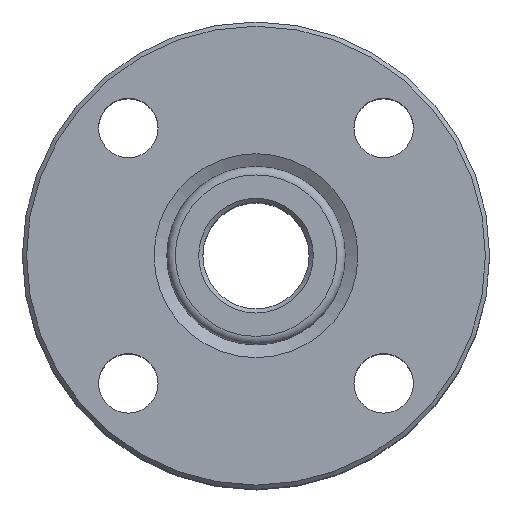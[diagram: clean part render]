
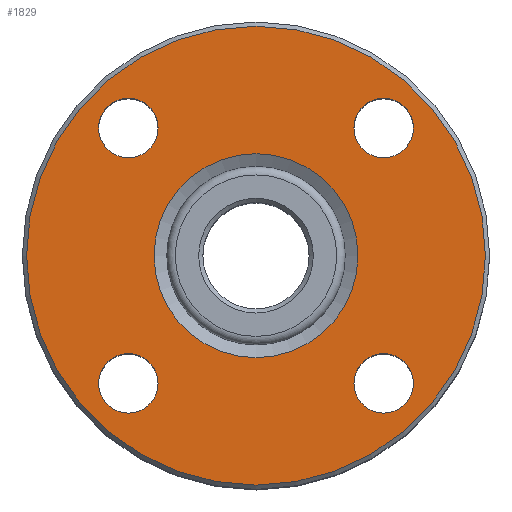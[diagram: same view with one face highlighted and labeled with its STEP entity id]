
A CAD part, top view. The second image highlights one B-rep face of the part: STEP entity #1829.
In plain terms, the highlighted planar face has unit normal (0, 0, 1).
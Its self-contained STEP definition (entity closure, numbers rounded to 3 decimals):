
#163=FACE_BOUND('',#354,.T.);
#164=FACE_BOUND('',#355,.T.);
#165=FACE_BOUND('',#356,.T.);
#166=FACE_BOUND('',#357,.T.);
#167=FACE_BOUND('',#358,.T.);
#176=PLANE('',#1975);
#238=FACE_OUTER_BOUND('',#353,.T.);
#353=EDGE_LOOP('',(#1219));
#354=EDGE_LOOP('',(#1220));
#355=EDGE_LOOP('',(#1221));
#356=EDGE_LOOP('',(#1222));
#357=EDGE_LOOP('',(#1223));
#358=EDGE_LOOP('',(#1224));
#636=CIRCLE('',#1974,54.);
#637=CIRCLE('',#1976,7.);
#638=CIRCLE('',#1977,7.);
#639=CIRCLE('',#1978,7.);
#640=CIRCLE('',#1979,7.);
#641=CIRCLE('',#1980,24.);
#756=VERTEX_POINT('',#2681);
#757=VERTEX_POINT('',#2685);
#758=VERTEX_POINT('',#2687);
#759=VERTEX_POINT('',#2689);
#760=VERTEX_POINT('',#2691);
#761=VERTEX_POINT('',#2693);
#938=EDGE_CURVE('',#756,#756,#636,.T.);
#939=EDGE_CURVE('',#757,#757,#637,.T.);
#940=EDGE_CURVE('',#758,#758,#638,.T.);
#941=EDGE_CURVE('',#759,#759,#639,.T.);
#942=EDGE_CURVE('',#760,#760,#640,.T.);
#943=EDGE_CURVE('',#761,#761,#641,.T.);
#1219=ORIENTED_EDGE('',*,*,#938,.F.);
#1220=ORIENTED_EDGE('',*,*,#939,.F.);
#1221=ORIENTED_EDGE('',*,*,#940,.F.);
#1222=ORIENTED_EDGE('',*,*,#941,.F.);
#1223=ORIENTED_EDGE('',*,*,#942,.F.);
#1224=ORIENTED_EDGE('',*,*,#943,.T.);
#1829=ADVANCED_FACE('',(#238,#163,#164,#165,#166,#167),#176,.F.);
#1974=AXIS2_PLACEMENT_3D('',#2683,#2212,#2213);
#1975=AXIS2_PLACEMENT_3D('',#2684,#2214,#2215);
#1976=AXIS2_PLACEMENT_3D('',#2686,#2216,#2217);
#1977=AXIS2_PLACEMENT_3D('',#2688,#2218,#2219);
#1978=AXIS2_PLACEMENT_3D('',#2690,#2220,#2221);
#1979=AXIS2_PLACEMENT_3D('',#2692,#2222,#2223);
#1980=AXIS2_PLACEMENT_3D('',#2694,#2224,#2225);
#2212=DIRECTION('center_axis',(0.,0.,-1.));
#2213=DIRECTION('ref_axis',(-1.,0.,0.));
#2214=DIRECTION('center_axis',(0.,0.,-1.));
#2215=DIRECTION('ref_axis',(-1.,0.,0.));
#2216=DIRECTION('center_axis',(0.,0.,1.));
#2217=DIRECTION('ref_axis',(1.,0.,0.));
#2218=DIRECTION('center_axis',(0.,0.,1.));
#2219=DIRECTION('ref_axis',(1.,0.,0.));
#2220=DIRECTION('center_axis',(0.,0.,1.));
#2221=DIRECTION('ref_axis',(1.,0.,0.));
#2222=DIRECTION('center_axis',(0.,0.,1.));
#2223=DIRECTION('ref_axis',(1.,0.,0.));
#2224=DIRECTION('center_axis',(0.,0.,-1.));
#2225=DIRECTION('ref_axis',(0.,1.,0.));
#2681=CARTESIAN_POINT('',(54.,0.,43.5));
#2683=CARTESIAN_POINT('Origin',(0.,0.,43.5));
#2684=CARTESIAN_POINT('Origin',(0.,0.,43.5));
#2685=CARTESIAN_POINT('',(-37.052,30.052,43.5));
#2686=CARTESIAN_POINT('Origin',(-30.052,30.052,43.5));
#2687=CARTESIAN_POINT('',(-37.052,-30.052,43.5));
#2688=CARTESIAN_POINT('Origin',(-30.052,-30.052,43.5));
#2689=CARTESIAN_POINT('',(23.052,-30.052,43.5));
#2690=CARTESIAN_POINT('Origin',(30.052,-30.052,43.5));
#2691=CARTESIAN_POINT('',(23.052,30.052,43.5));
#2692=CARTESIAN_POINT('Origin',(30.052,30.052,43.5));
#2693=CARTESIAN_POINT('',(0.,-24.,43.5));
#2694=CARTESIAN_POINT('Origin',(0.,0.,43.5));
